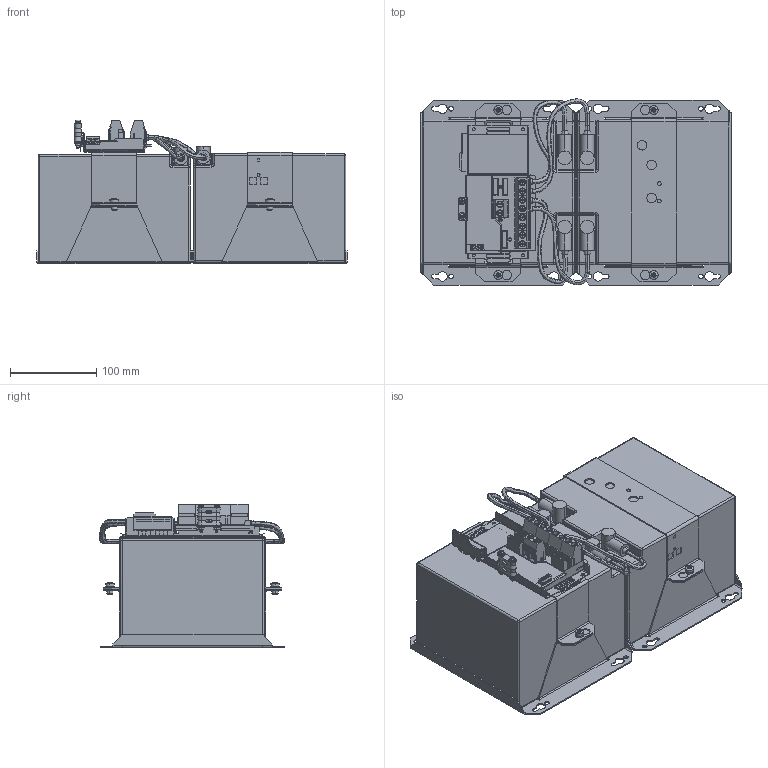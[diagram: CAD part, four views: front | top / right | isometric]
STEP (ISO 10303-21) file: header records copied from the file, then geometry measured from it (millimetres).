
FILE_DESCRIPTION((''),'2;1');
FILE_NAME('UZK24_262_ASM','2021-03-26T',('kiesel'),(''),'CREO PARAMETRIC BY PTC INC, 2014500','CREO PARAMETRIC BY PTC INC, 2014500','');
FILE_SCHEMA(('CONFIG_CONTROL_DESIGN','GEOMETRIC_VALIDATION_PROPERTIES_MIM'));
Products named in the file (48): EW-393_990_09; NUT_309; EW-393_990_09_ASM; EI-393_900_09; AP-393_220_00; FH-FLR-HK; XT-LP3BL-D9; XT-LP2BK-D5; AP-393_220_00_ASM; RLCBSR-4-01; EF-KABELHA-34; SCREW_229; WASHER_003; WASHER_021; NUT_313; EI-359_971_00_A; BLADE_FUSE_40A; EL-393_920_09; EL-393_930_09; EL-393_940_09; EL-200_819; AZ-393_100_09_MODUL_ASM; SCREW_995; NUT_500; WASHER_014; SCREW_451; XS-RING_6-6; WI-393_860_00-BG; FERRULE_601; WI-393_860_00-BG_ASM; WI-393_870_00-BG; WI-393_870_00-BG_ASM; WI-393_880_00-BG; WI-393_880_00-BG_ASM; XS-RING_5-6; WI-393_880_00-BK; WI-393_880_00-BG2_ASM; EI-ISKA_RD-10; EI-ISKA_BK-10; EW-359_992_02_A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
Assembly tree (93 placements, depth 4):
  UZK24_262_ASM
    AZ-393_100_09_MODUL_ASM
      EW-393_990_09_ASM
        EW-393_990_09
        NUT_309  x2
      EI-393_900_09
      AP-393_220_00_ASM
        AP-393_220_00
        FH-FLR-HK  x3
        XT-LP3BL-D9
        XT-LP2BK-D5  x5
      RLCBSR-4-01  x3
      EF-KABELHA-34  x4
      SCREW_229  x2
      WASHER_003  x2
      WASHER_021  x2
      NUT_313  x2
      EI-359_971_00_A
      BLADE_FUSE_40A  x2
      EL-393_920_09
      EL-393_930_09
      EL-393_940_09
      EL-200_819
    SCREW_995  x4
    NUT_500  x8
    WASHER_014  x4
    SCREW_451  x4
    WI-393_860_00-BG_ASM
      XS-RING_6-6
      WI-393_860_00-BG
      FERRULE_601
    WI-393_870_00-BG_ASM
      XS-RING_6-6
      WI-393_870_00-BG
      FERRULE_601
    WI-393_880_00-BG_ASM
      XS-RING_6-6
      WI-393_880_00-BG
      FERRULE_601
    WI-393_880_00-BG2_ASM
      XS-RING_5-6
      WI-393_880_00-BK
      FERRULE_601
    EI-ISKA_RD-10  x2
    EI-ISKA_BK-10  x2
    AW-359_HALTER_ASM  x2
      EW-359_992_02_A
      EW-359_991_09
      SCREW_452
      WASHER_215
      EA-TAPE_EPDM-10
    GB-SWL750-30  x2
    SCREW_100  x2
Bounding box: 359 x 215.14 x 166.53 mm (x, y, z)
Volume: 7618797.7 mm3; surface area: 703747.1 mm2
Topology: 89 solids, 141 shells, 4569 faces, 12157 edges, 7874 vertices
Faces by surface type: plane 2690, cylinder 1149, cone 370, bspline 250, torus 70, sphere 34, extrusion 6
Entity records: 108692 total; most frequent: CARTESIAN_POINT 37305, ORIENTED_EDGE 10602, DIRECTION 10544, EDGE_CURVE 5373, PRESENTATION_STYLE_ASSIGNMENT 4904, STYLED_ITEM 4619, CURVE_STYLE 4338, AXIS2_PLACEMENT_3D 3570
